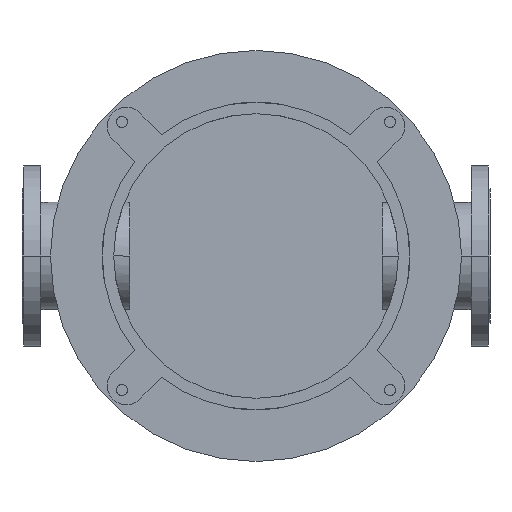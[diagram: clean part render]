
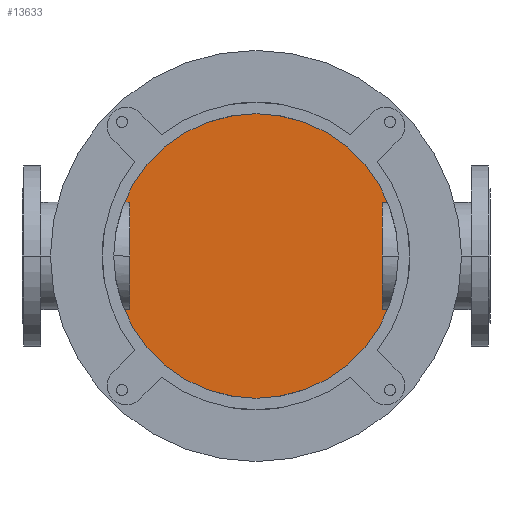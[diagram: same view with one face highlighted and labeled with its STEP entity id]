
A CAD part, front view. The second image highlights one B-rep face of the part: STEP entity #13633.
In plain terms, the highlighted planar face has unit normal (0, -1, 0).
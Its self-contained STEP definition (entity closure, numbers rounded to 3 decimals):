
#3273=CARTESIAN_POINT('',(0.,836.,0.));
#3274=DIRECTION('',(0.,-1.,0.));
#3275=DIRECTION('',(0.,0.,1.));
#3276=AXIS2_PLACEMENT_3D('',#3273,#3274,#3275);
#3400=CARTESIAN_POINT('',(0.,836.,0.));
#3401=DIRECTION('',(0.,-1.,0.));
#3402=DIRECTION('',(0.,0.,-1.));
#3403=AXIS2_PLACEMENT_3D('',#3400,#3401,#3402);
#8569=CARTESIAN_POINT('',(0.,836.,240.));
#8570=CARTESIAN_POINT('',(0.,836.,-240.));
#8571=VERTEX_POINT('',#8569);
#8572=VERTEX_POINT('',#8570);
#13623=CARTESIAN_POINT('',(0.,836.,0.));
#13624=DIRECTION('',(0.,1.,0.));
#13625=DIRECTION('',(0.,0.,-1.));
#13626=AXIS2_PLACEMENT_3D('',#13623,#13624,#13625);
#13627=PLANE('',#13626);
#13628=ORIENTED_EDGE('',*,*,#13607,.F.);
#13630=ORIENTED_EDGE('',*,*,#13629,.F.);
#13631=EDGE_LOOP('',(#13628,#13630));
#13632=FACE_OUTER_BOUND('',#13631,.F.);
#13633=ADVANCED_FACE('',(#13632),#13627,.F.);
#3277=CIRCLE('',#3276,240.);
#3404=CIRCLE('',#3403,240.);
#13607=EDGE_CURVE('',#8571,#8572,#3277,.T.);
#13629=EDGE_CURVE('',#8572,#8571,#3404,.T.);
